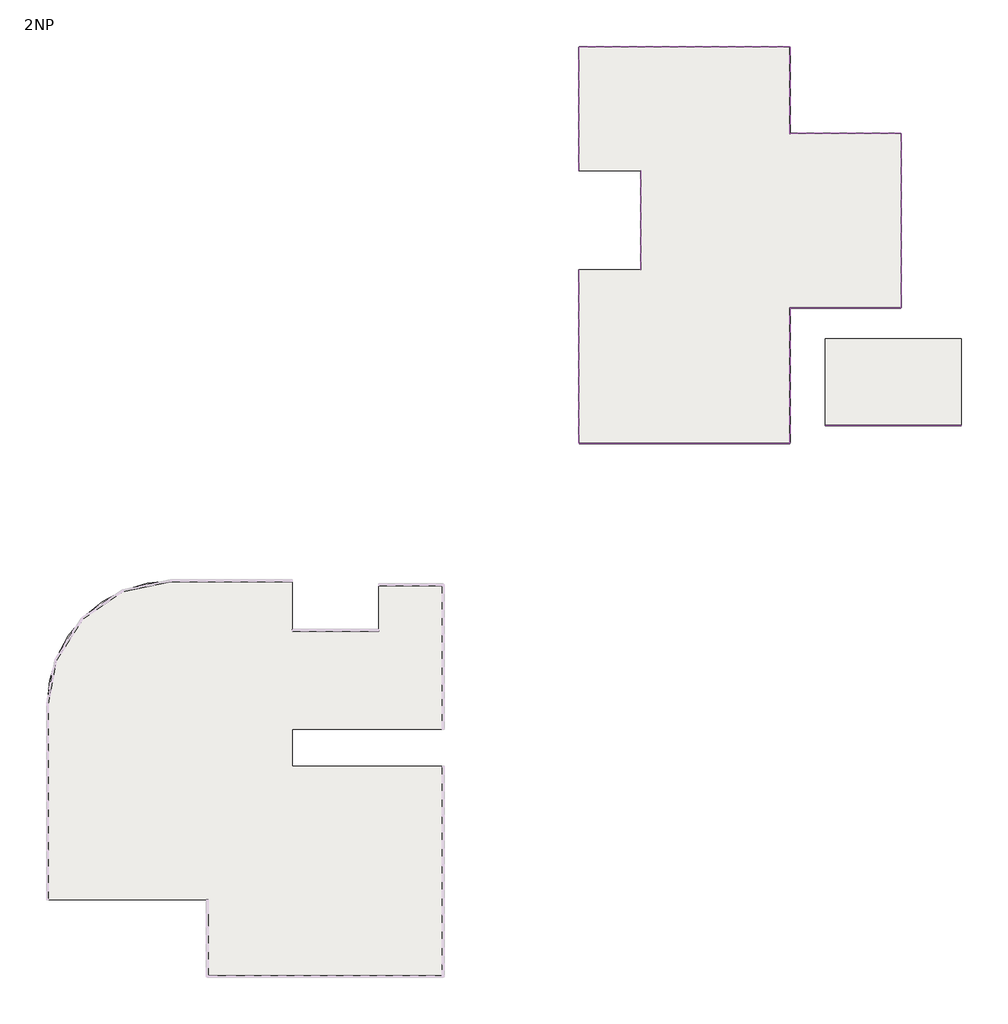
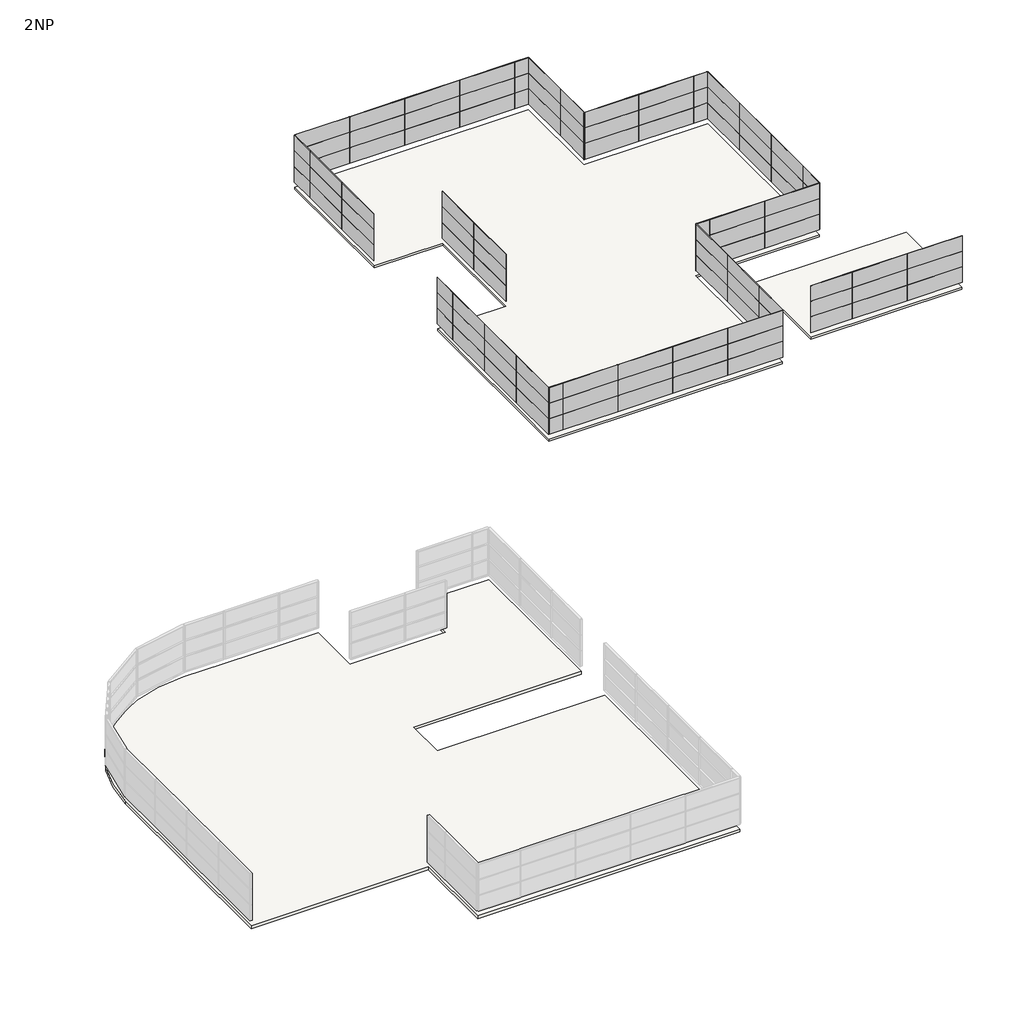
# One storey, part 4 of 4: 111 plates, 2 slabs.
"""IFC4 building model written with IfcOpenShell, lengths in millimetres."""

from ifc_helpers import new_model, si_unit, point, frame, frame_2d, origin, place, context, project, spatial, polyline, circle_curve, trimmed, segment, composite_curve, outline, extrude, transform, mapped, element, save
from components import system_panel_glazed_d6eabcf1, system_panel_glazed_926b6355, system_panel_glazed_d9fb9d0a, system_panel_glazed_4df6a082, system_panel_glazed_76089698, system_panel_glazed_7578c6fa

model = new_model("IFC4")

# Units and contexts
model_context = context("Model", 3, world=origin())
ifc_project = project(units=[si_unit("LENGTHUNIT", "METRE", prefix="MILLI")], contexts=[model_context])

# Site, building, storey
site = spatial("IfcSite", under=ifc_project)
building = spatial("IfcBuilding", under=site)
storey = spatial("IfcBuildingStorey", under=building, Name="2NP", Elevation=8000.0)

# Plates
placement = place(None, origin())
system_panel_glazed_shape = system_panel_glazed_d6eabcf1(model_context)
element("IfcPlate", 1, ObjectType="System Panel : Glazed", at=placement, inside=storey, context=model_context, shape_type="MappedRepresentation", body=[
    mapped(system_panel_glazed_shape, transform((39503.2660975, 19519.7749227, 8400.0), x_axis=(-1.0, 0.0, 0.0), y_axis=(0.0, -1.0, 0.0), z_axis=(0.0, 0.0, 1.0))),
])
element("IfcPlate", 2, ObjectType="System Panel : Glazed", at=placement, inside=storey, context=model_context, shape_type="MappedRepresentation", body=[
    mapped(system_panel_glazed_shape, transform((35503.2660975, 19519.7749227, 8400.0), x_axis=(-1.0, 0.0, 0.0), y_axis=(0.0, -1.0, 0.0), z_axis=(0.0, 0.0, 1.0))),
])
element("IfcPlate", 3, ObjectType="System Panel : Glazed", at=placement, inside=storey, context=model_context, shape_type="MappedRepresentation", body=[
    mapped(system_panel_glazed_shape, transform((31503.2660975, 19519.7749227, 8400.0), x_axis=(-1.0, 0.0, 0.0), y_axis=(0.0, -1.0, 0.0), z_axis=(0.0, 0.0, 1.0))),
])
element("IfcPlate", 4, ObjectType="System Panel : Glazed", at=placement, inside=storey, context=model_context, shape_type="MappedRepresentation", body=[
    mapped(system_panel_glazed_shape, transform((27503.2660975, 19519.7749227, 8400.0), x_axis=(-1.0, 0.0, 0.0), y_axis=(0.0, -1.0, 0.0), z_axis=(0.0, 0.0, 1.0))),
])
element("IfcPlate", 5, ObjectType="System Panel : Glazed", at=placement, inside=storey, context=model_context, shape_type="MappedRepresentation", body=[
    mapped(system_panel_glazed_shape, transform((39503.2660975, 19519.7749227, 9600.0), x_axis=(-1.0, 0.0, 0.0), y_axis=(0.0, -1.0, 0.0), z_axis=(0.0, 0.0, 1.0))),
])
element("IfcPlate", 6, ObjectType="System Panel : Glazed", at=placement, inside=storey, context=model_context, shape_type="MappedRepresentation", body=[
    mapped(system_panel_glazed_shape, transform((35503.2660975, 19519.7749227, 9600.0), x_axis=(-1.0, 0.0, 0.0), y_axis=(0.0, -1.0, 0.0), z_axis=(0.0, 0.0, 1.0))),
])
element("IfcPlate", 7, ObjectType="System Panel : Glazed", at=placement, inside=storey, context=model_context, shape_type="MappedRepresentation", body=[
    mapped(system_panel_glazed_shape, transform((31503.2660975, 19519.7749227, 9600.0), x_axis=(-1.0, 0.0, 0.0), y_axis=(0.0, -1.0, 0.0), z_axis=(0.0, 0.0, 1.0))),
])
element("IfcPlate", 8, ObjectType="System Panel : Glazed", at=placement, inside=storey, context=model_context, shape_type="MappedRepresentation", body=[
    mapped(system_panel_glazed_shape, transform((27503.2660975, 19519.7749227, 9600.0), x_axis=(-1.0, 0.0, 0.0), y_axis=(0.0, -1.0, 0.0), z_axis=(0.0, 0.0, 1.0))),
])
element("IfcPlate", 9, ObjectType="System Panel : Glazed", at=placement, inside=storey, context=model_context, shape_type="MappedRepresentation", body=[
    mapped(system_panel_glazed_shape, transform((39503.2660975, 19519.7749227, 10800.0), x_axis=(-1.0, 0.0, 0.0), y_axis=(0.0, -1.0, 0.0), z_axis=(0.0, 0.0, 1.0))),
])
element("IfcPlate", 10, ObjectType="System Panel : Glazed", at=placement, inside=storey, context=model_context, shape_type="MappedRepresentation", body=[
    mapped(system_panel_glazed_shape, transform((35503.2660975, 19519.7749227, 10800.0), x_axis=(-1.0, 0.0, 0.0), y_axis=(0.0, -1.0, 0.0), z_axis=(0.0, 0.0, 1.0))),
])
element("IfcPlate", 11, ObjectType="System Panel : Glazed", at=placement, inside=storey, context=model_context, shape_type="MappedRepresentation", body=[
    mapped(system_panel_glazed_shape, transform((31503.2660975, 19519.7749227, 10800.0), x_axis=(-1.0, 0.0, 0.0), y_axis=(0.0, -1.0, 0.0), z_axis=(0.0, 0.0, 1.0))),
])
element("IfcPlate", 12, ObjectType="System Panel : Glazed", at=placement, inside=storey, context=model_context, shape_type="MappedRepresentation", body=[
    mapped(system_panel_glazed_shape, transform((27503.2660975, 19519.7749227, 10800.0), x_axis=(-1.0, 0.0, 0.0), y_axis=(0.0, -1.0, 0.0), z_axis=(0.0, 0.0, 1.0))),
])
element("IfcPlate", 13, ObjectType="System Panel : Glazed", at=placement, inside=storey, context=model_context, shape_type="MappedRepresentation", body=[
    mapped(system_panel_glazed_shape, transform((24503.2660975, 21519.7749227, 8400.0), x_axis=(0.0, 1.0, 0.0), y_axis=(-1.0, 0.0, 0.0), z_axis=(0.0, 0.0, 1.0))),
])
element("IfcPlate", 14, ObjectType="System Panel : Glazed", at=placement, inside=storey, context=model_context, shape_type="MappedRepresentation", body=[
    mapped(system_panel_glazed_shape, transform((24503.2660975, 25519.7749227, 8400.0), x_axis=(0.0, 1.0, 0.0), y_axis=(-1.0, 0.0, 0.0), z_axis=(0.0, 0.0, 1.0))),
])
element("IfcPlate", 15, ObjectType="System Panel : Glazed", at=placement, inside=storey, context=model_context, shape_type="MappedRepresentation", body=[
    mapped(system_panel_glazed_shape, transform((24503.2660975, 29519.7749227, 8400.0), x_axis=(0.0, 1.0, 0.0), y_axis=(-1.0, 0.0, 0.0), z_axis=(0.0, 0.0, 1.0))),
])
element("IfcPlate", 16, ObjectType="System Panel : Glazed", at=placement, inside=storey, context=model_context, shape_type="MappedRepresentation", body=[
    mapped(system_panel_glazed_shape, transform((24503.2660975, 21519.7749227, 9600.0), x_axis=(0.0, 1.0, 0.0), y_axis=(-1.0, 0.0, 0.0), z_axis=(0.0, 0.0, 1.0))),
])
element("IfcPlate", 17, ObjectType="System Panel : Glazed", at=placement, inside=storey, context=model_context, shape_type="MappedRepresentation", body=[
    mapped(system_panel_glazed_shape, transform((24503.2660975, 25519.7749227, 9600.0), x_axis=(0.0, 1.0, 0.0), y_axis=(-1.0, 0.0, 0.0), z_axis=(0.0, 0.0, 1.0))),
])
element("IfcPlate", 18, ObjectType="System Panel : Glazed", at=placement, inside=storey, context=model_context, shape_type="MappedRepresentation", body=[
    mapped(system_panel_glazed_shape, transform((24503.2660975, 29519.7749227, 9600.0), x_axis=(0.0, 1.0, 0.0), y_axis=(-1.0, 0.0, 0.0), z_axis=(0.0, 0.0, 1.0))),
])
element("IfcPlate", 19, ObjectType="System Panel : Glazed", at=placement, inside=storey, context=model_context, shape_type="MappedRepresentation", body=[
    mapped(system_panel_glazed_shape, transform((24503.2660975, 21519.7749227, 10800.0), x_axis=(0.0, 1.0, 0.0), y_axis=(-1.0, 0.0, 0.0), z_axis=(0.0, 0.0, 1.0))),
])
element("IfcPlate", 20, ObjectType="System Panel : Glazed", at=placement, inside=storey, context=model_context, shape_type="MappedRepresentation", body=[
    mapped(system_panel_glazed_shape, transform((24503.2660975, 25519.7749227, 10800.0), x_axis=(0.0, 1.0, 0.0), y_axis=(-1.0, 0.0, 0.0), z_axis=(0.0, 0.0, 1.0))),
])
element("IfcPlate", 21, ObjectType="System Panel : Glazed", at=placement, inside=storey, context=model_context, shape_type="MappedRepresentation", body=[
    mapped(system_panel_glazed_shape, transform((24503.2660975, 29519.7749227, 10800.0), x_axis=(0.0, 1.0, 0.0), y_axis=(-1.0, 0.0, 0.0), z_axis=(0.0, 0.0, 1.0))),
])
element("IfcPlate", 22, ObjectType="System Panel : Glazed", at=placement, inside=storey, context=model_context, shape_type="MappedRepresentation", body=[
    mapped(system_panel_glazed_shape, transform((29503.2660975, 35519.7749227, 8400.0), x_axis=(0.0, 1.0, 0.0), y_axis=(-1.0, 0.0, 0.0), z_axis=(0.0, 0.0, 1.0))),
])
element("IfcPlate", 23, ObjectType="System Panel : Glazed", at=placement, inside=storey, context=model_context, shape_type="MappedRepresentation", body=[
    mapped(system_panel_glazed_shape, transform((29503.2660975, 39519.7749227, 8400.0), x_axis=(0.0, 1.0, 0.0), y_axis=(-1.0, 0.0, 0.0), z_axis=(0.0, 0.0, 1.0))),
])
element("IfcPlate", 24, ObjectType="System Panel : Glazed", at=placement, inside=storey, context=model_context, shape_type="MappedRepresentation", body=[
    mapped(system_panel_glazed_shape, transform((29503.2660975, 35519.7749227, 9600.0), x_axis=(0.0, 1.0, 0.0), y_axis=(-1.0, 0.0, 0.0), z_axis=(0.0, 0.0, 1.0))),
])
element("IfcPlate", 25, ObjectType="System Panel : Glazed", at=placement, inside=storey, context=model_context, shape_type="MappedRepresentation", body=[
    mapped(system_panel_glazed_shape, transform((29503.2660975, 39519.7749227, 9600.0), x_axis=(0.0, 1.0, 0.0), y_axis=(-1.0, 0.0, 0.0), z_axis=(0.0, 0.0, 1.0))),
])
element("IfcPlate", 26, ObjectType="System Panel : Glazed", at=placement, inside=storey, context=model_context, shape_type="MappedRepresentation", body=[
    mapped(system_panel_glazed_shape, transform((29503.2660975, 35519.7749227, 10800.0), x_axis=(0.0, 1.0, 0.0), y_axis=(-1.0, 0.0, 0.0), z_axis=(0.0, 0.0, 1.0))),
])
element("IfcPlate", 27, ObjectType="System Panel : Glazed", at=placement, inside=storey, context=model_context, shape_type="MappedRepresentation", body=[
    mapped(system_panel_glazed_shape, transform((29503.2660975, 39519.7749227, 10800.0), x_axis=(0.0, 1.0, 0.0), y_axis=(-1.0, 0.0, 0.0), z_axis=(0.0, 0.0, 1.0))),
])
element("IfcPlate", 28, ObjectType="System Panel : Glazed", at=placement, inside=storey, context=model_context, shape_type="MappedRepresentation", body=[
    mapped(system_panel_glazed_shape, transform((24503.2660975, 43519.7749227, 8400.0), x_axis=(0.0, 1.0, 0.0), y_axis=(-1.0, 0.0, 0.0), z_axis=(0.0, 0.0, 1.0))),
])
element("IfcPlate", 29, ObjectType="System Panel : Glazed", at=placement, inside=storey, context=model_context, shape_type="MappedRepresentation", body=[
    mapped(system_panel_glazed_shape, transform((24503.2660975, 47519.7749227, 8400.0), x_axis=(0.0, 1.0, 0.0), y_axis=(-1.0, 0.0, 0.0), z_axis=(0.0, 0.0, 1.0))),
])
element("IfcPlate", 30, ObjectType="System Panel : Glazed", at=placement, inside=storey, context=model_context, shape_type="MappedRepresentation", body=[
    mapped(system_panel_glazed_shape, transform((24503.2660975, 43519.7749227, 9600.0), x_axis=(0.0, 1.0, 0.0), y_axis=(-1.0, 0.0, 0.0), z_axis=(0.0, 0.0, 1.0))),
])
element("IfcPlate", 31, ObjectType="System Panel : Glazed", at=placement, inside=storey, context=model_context, shape_type="MappedRepresentation", body=[
    mapped(system_panel_glazed_shape, transform((24503.2660975, 47519.7749227, 9600.0), x_axis=(0.0, 1.0, 0.0), y_axis=(-1.0, 0.0, 0.0), z_axis=(0.0, 0.0, 1.0))),
])
element("IfcPlate", 32, ObjectType="System Panel : Glazed", at=placement, inside=storey, context=model_context, shape_type="MappedRepresentation", body=[
    mapped(system_panel_glazed_shape, transform((24503.2660975, 43519.7749227, 10800.0), x_axis=(0.0, 1.0, 0.0), y_axis=(-1.0, 0.0, 0.0), z_axis=(0.0, 0.0, 1.0))),
])
element("IfcPlate", 33, ObjectType="System Panel : Glazed", at=placement, inside=storey, context=model_context, shape_type="MappedRepresentation", body=[
    mapped(system_panel_glazed_shape, transform((24503.2660975, 47519.7749227, 10800.0), x_axis=(0.0, 1.0, 0.0), y_axis=(-1.0, 0.0, 0.0), z_axis=(0.0, 0.0, 1.0))),
])
element("IfcPlate", 34, ObjectType="System Panel : Glazed", at=placement, inside=storey, context=model_context, shape_type="MappedRepresentation", body=[
    mapped(system_panel_glazed_shape, transform((48503.2660975, 30457.4517739, 8400.0), x_axis=(-1.0, 0.0, 0.0), y_axis=(0.0, -1.0, 0.0), z_axis=(0.0, 0.0, 1.0))),
])
element("IfcPlate", 35, ObjectType="System Panel : Glazed", at=placement, inside=storey, context=model_context, shape_type="MappedRepresentation", body=[
    mapped(system_panel_glazed_shape, transform((44503.2660975, 30457.4517739, 8400.0), x_axis=(-1.0, 0.0, 0.0), y_axis=(0.0, -1.0, 0.0), z_axis=(0.0, 0.0, 1.0))),
])
element("IfcPlate", 36, ObjectType="System Panel : Glazed", at=placement, inside=storey, context=model_context, shape_type="MappedRepresentation", body=[
    mapped(system_panel_glazed_shape, transform((48503.2660975, 30457.4517739, 9600.0), x_axis=(-1.0, 0.0, 0.0), y_axis=(0.0, -1.0, 0.0), z_axis=(0.0, 0.0, 1.0))),
])
element("IfcPlate", 37, ObjectType="System Panel : Glazed", at=placement, inside=storey, context=model_context, shape_type="MappedRepresentation", body=[
    mapped(system_panel_glazed_shape, transform((44503.2660975, 30457.4517739, 9600.0), x_axis=(-1.0, 0.0, 0.0), y_axis=(0.0, -1.0, 0.0), z_axis=(0.0, 0.0, 1.0))),
])
element("IfcPlate", 38, ObjectType="System Panel : Glazed", at=placement, inside=storey, context=model_context, shape_type="MappedRepresentation", body=[
    mapped(system_panel_glazed_shape, transform((48503.2660975, 30457.4517739, 10800.0), x_axis=(-1.0, 0.0, 0.0), y_axis=(0.0, -1.0, 0.0), z_axis=(0.0, 0.0, 1.0))),
])
element("IfcPlate", 39, ObjectType="System Panel : Glazed", at=placement, inside=storey, context=model_context, shape_type="MappedRepresentation", body=[
    mapped(system_panel_glazed_shape, transform((44503.2660975, 30457.4517739, 10800.0), x_axis=(-1.0, 0.0, 0.0), y_axis=(0.0, -1.0, 0.0), z_axis=(0.0, 0.0, 1.0))),
])
element("IfcPlate", 40, ObjectType="System Panel : Glazed", at=placement, inside=storey, context=model_context, shape_type="MappedRepresentation", body=[
    mapped(system_panel_glazed_shape, transform((53401.4778879, 20957.9625489, 8400.0), x_axis=(-1.0, 0.0, 0.0), y_axis=(0.0, -1.0, 0.0), z_axis=(0.0, 0.0, 1.0))),
])
element("IfcPlate", 41, ObjectType="System Panel : Glazed", at=placement, inside=storey, context=model_context, shape_type="MappedRepresentation", body=[
    mapped(system_panel_glazed_shape, transform((49401.4778879, 20957.9625489, 8400.0), x_axis=(-1.0, 0.0, 0.0), y_axis=(0.0, -1.0, 0.0), z_axis=(0.0, 0.0, 1.0))),
])
element("IfcPlate", 42, ObjectType="System Panel : Glazed", at=placement, inside=storey, context=model_context, shape_type="MappedRepresentation", body=[
    mapped(system_panel_glazed_shape, transform((53401.4778879, 20957.9625489, 9600.0), x_axis=(-1.0, 0.0, 0.0), y_axis=(0.0, -1.0, 0.0), z_axis=(0.0, 0.0, 1.0))),
])
element("IfcPlate", 43, ObjectType="System Panel : Glazed", at=placement, inside=storey, context=model_context, shape_type="MappedRepresentation", body=[
    mapped(system_panel_glazed_shape, transform((49401.4778879, 20957.9625489, 9600.0), x_axis=(-1.0, 0.0, 0.0), y_axis=(0.0, -1.0, 0.0), z_axis=(0.0, 0.0, 1.0))),
])
element("IfcPlate", 44, ObjectType="System Panel : Glazed", at=placement, inside=storey, context=model_context, shape_type="MappedRepresentation", body=[
    mapped(system_panel_glazed_shape, transform((53401.4778879, 20957.9625489, 10800.0), x_axis=(-1.0, 0.0, 0.0), y_axis=(0.0, -1.0, 0.0), z_axis=(0.0, 0.0, 1.0))),
])
element("IfcPlate", 45, ObjectType="System Panel : Glazed", at=placement, inside=storey, context=model_context, shape_type="MappedRepresentation", body=[
    mapped(system_panel_glazed_shape, transform((49401.4778879, 20957.9625489, 10800.0), x_axis=(-1.0, 0.0, 0.0), y_axis=(0.0, -1.0, 0.0), z_axis=(0.0, 0.0, 1.0))),
])
element("IfcPlate", 46, ObjectType="System Panel : Glazed", at=placement, inside=storey, context=model_context, shape_type="MappedRepresentation", body=[
    mapped(system_panel_glazed_shape, transform((26503.2660975, 51519.7749227, 8400.0), x_axis=(1.0, 0.0, 0.0), y_axis=(0.0, 1.0, 0.0), z_axis=(0.0, 0.0, 1.0))),
])
element("IfcPlate", 47, ObjectType="System Panel : Glazed", at=placement, inside=storey, context=model_context, shape_type="MappedRepresentation", body=[
    mapped(system_panel_glazed_shape, transform((30503.2660975, 51519.7749227, 8400.0), x_axis=(1.0, 0.0, 0.0), y_axis=(0.0, 1.0, 0.0), z_axis=(0.0, 0.0, 1.0))),
])
element("IfcPlate", 48, ObjectType="System Panel : Glazed", at=placement, inside=storey, context=model_context, shape_type="MappedRepresentation", body=[
    mapped(system_panel_glazed_shape, transform((34503.2660975, 51519.7749227, 8400.0), x_axis=(1.0, 0.0, 0.0), y_axis=(0.0, 1.0, 0.0), z_axis=(0.0, 0.0, 1.0))),
])
element("IfcPlate", 49, ObjectType="System Panel : Glazed", at=placement, inside=storey, context=model_context, shape_type="MappedRepresentation", body=[
    mapped(system_panel_glazed_shape, transform((38503.2660975, 51519.7749227, 8400.0), x_axis=(1.0, 0.0, 0.0), y_axis=(0.0, 1.0, 0.0), z_axis=(0.0, 0.0, 1.0))),
])
element("IfcPlate", 50, ObjectType="System Panel : Glazed", at=placement, inside=storey, context=model_context, shape_type="MappedRepresentation", body=[
    mapped(system_panel_glazed_shape, transform((26503.2660975, 51519.7749227, 9600.0), x_axis=(1.0, 0.0, 0.0), y_axis=(0.0, 1.0, 0.0), z_axis=(0.0, 0.0, 1.0))),
])
element("IfcPlate", 51, ObjectType="System Panel : Glazed", at=placement, inside=storey, context=model_context, shape_type="MappedRepresentation", body=[
    mapped(system_panel_glazed_shape, transform((30503.2660975, 51519.7749227, 9600.0), x_axis=(1.0, 0.0, 0.0), y_axis=(0.0, 1.0, 0.0), z_axis=(0.0, 0.0, 1.0))),
])
element("IfcPlate", 52, ObjectType="System Panel : Glazed", at=placement, inside=storey, context=model_context, shape_type="MappedRepresentation", body=[
    mapped(system_panel_glazed_shape, transform((34503.2660975, 51519.7749227, 9600.0), x_axis=(1.0, 0.0, 0.0), y_axis=(0.0, 1.0, 0.0), z_axis=(0.0, 0.0, 1.0))),
])
element("IfcPlate", 53, ObjectType="System Panel : Glazed", at=placement, inside=storey, context=model_context, shape_type="MappedRepresentation", body=[
    mapped(system_panel_glazed_shape, transform((38503.2660975, 51519.7749227, 9600.0), x_axis=(1.0, 0.0, 0.0), y_axis=(0.0, 1.0, 0.0), z_axis=(0.0, 0.0, 1.0))),
])
element("IfcPlate", 54, ObjectType="System Panel : Glazed", at=placement, inside=storey, context=model_context, shape_type="MappedRepresentation", body=[
    mapped(system_panel_glazed_shape, transform((26503.2660975, 51519.7749227, 10800.0), x_axis=(1.0, 0.0, 0.0), y_axis=(0.0, 1.0, 0.0), z_axis=(0.0, 0.0, 1.0))),
])
element("IfcPlate", 55, ObjectType="System Panel : Glazed", at=placement, inside=storey, context=model_context, shape_type="MappedRepresentation", body=[
    mapped(system_panel_glazed_shape, transform((30503.2660975, 51519.7749227, 10800.0), x_axis=(1.0, 0.0, 0.0), y_axis=(0.0, 1.0, 0.0), z_axis=(0.0, 0.0, 1.0))),
])
element("IfcPlate", 56, ObjectType="System Panel : Glazed", at=placement, inside=storey, context=model_context, shape_type="MappedRepresentation", body=[
    mapped(system_panel_glazed_shape, transform((34503.2660975, 51519.7749227, 10800.0), x_axis=(1.0, 0.0, 0.0), y_axis=(0.0, 1.0, 0.0), z_axis=(0.0, 0.0, 1.0))),
])
element("IfcPlate", 57, ObjectType="System Panel : Glazed", at=placement, inside=storey, context=model_context, shape_type="MappedRepresentation", body=[
    mapped(system_panel_glazed_shape, transform((38503.2660975, 51519.7749227, 10800.0), x_axis=(1.0, 0.0, 0.0), y_axis=(0.0, 1.0, 0.0), z_axis=(0.0, 0.0, 1.0))),
])
element("IfcPlate", 58, ObjectType="System Panel : Glazed", at=placement, inside=storey, context=model_context, shape_type="MappedRepresentation", body=[
    mapped(system_panel_glazed_shape, transform((41503.2660975, 49519.7749227, 8400.0), x_axis=(0.0, -1.0, 0.0), y_axis=(1.0, 0.0, 0.0), z_axis=(0.0, 0.0, 1.0))),
])
element("IfcPlate", 59, ObjectType="System Panel : Glazed", at=placement, inside=storey, context=model_context, shape_type="MappedRepresentation", body=[
    mapped(system_panel_glazed_shape, transform((41503.2660975, 49519.7749227, 9600.0), x_axis=(0.0, -1.0, 0.0), y_axis=(1.0, 0.0, 0.0), z_axis=(0.0, 0.0, 1.0))),
])
element("IfcPlate", 60, ObjectType="System Panel : Glazed", at=placement, inside=storey, context=model_context, shape_type="MappedRepresentation", body=[
    mapped(system_panel_glazed_shape, transform((41503.2660975, 49519.7749227, 10800.0), x_axis=(0.0, -1.0, 0.0), y_axis=(1.0, 0.0, 0.0), z_axis=(0.0, 0.0, 1.0))),
])
element("IfcPlate", 61, ObjectType="System Panel : Glazed", at=placement, inside=storey, context=model_context, shape_type="MappedRepresentation", body=[
    mapped(system_panel_glazed_shape, transform((43503.2660975, 44519.7749227, 8400.0), x_axis=(1.0, 0.0, 0.0), y_axis=(0.0, 1.0, 0.0), z_axis=(0.0, 0.0, 1.0))),
])
element("IfcPlate", 62, ObjectType="System Panel : Glazed", at=placement, inside=storey, context=model_context, shape_type="MappedRepresentation", body=[
    mapped(system_panel_glazed_shape, transform((47503.2660975, 44519.7749227, 8400.0), x_axis=(1.0, 0.0, 0.0), y_axis=(0.0, 1.0, 0.0), z_axis=(0.0, 0.0, 1.0))),
])
element("IfcPlate", 63, ObjectType="System Panel : Glazed", at=placement, inside=storey, context=model_context, shape_type="MappedRepresentation", body=[
    mapped(system_panel_glazed_shape, transform((43503.2660975, 44519.7749227, 9600.0), x_axis=(1.0, 0.0, 0.0), y_axis=(0.0, 1.0, 0.0), z_axis=(0.0, 0.0, 1.0))),
])
element("IfcPlate", 64, ObjectType="System Panel : Glazed", at=placement, inside=storey, context=model_context, shape_type="MappedRepresentation", body=[
    mapped(system_panel_glazed_shape, transform((47503.2660975, 44519.7749227, 9600.0), x_axis=(1.0, 0.0, 0.0), y_axis=(0.0, 1.0, 0.0), z_axis=(0.0, 0.0, 1.0))),
])
element("IfcPlate", 65, ObjectType="System Panel : Glazed", at=placement, inside=storey, context=model_context, shape_type="MappedRepresentation", body=[
    mapped(system_panel_glazed_shape, transform((43503.2660975, 44519.7749227, 10800.0), x_axis=(1.0, 0.0, 0.0), y_axis=(0.0, 1.0, 0.0), z_axis=(0.0, 0.0, 1.0))),
])
element("IfcPlate", 66, ObjectType="System Panel : Glazed", at=placement, inside=storey, context=model_context, shape_type="MappedRepresentation", body=[
    mapped(system_panel_glazed_shape, transform((47503.2660975, 44519.7749227, 10800.0), x_axis=(1.0, 0.0, 0.0), y_axis=(0.0, 1.0, 0.0), z_axis=(0.0, 0.0, 1.0))),
])
element("IfcPlate", 67, ObjectType="System Panel : Glazed", at=placement, inside=storey, context=model_context, shape_type="MappedRepresentation", body=[
    mapped(system_panel_glazed_shape, transform((50503.2660975, 42519.7749227, 8400.0), x_axis=(0.0, -1.0, 0.0), y_axis=(1.0, 0.0, 0.0), z_axis=(0.0, 0.0, 1.0))),
])
element("IfcPlate", 68, ObjectType="System Panel : Glazed", at=placement, inside=storey, context=model_context, shape_type="MappedRepresentation", body=[
    mapped(system_panel_glazed_shape, transform((50503.2660975, 38519.7749227, 8400.0), x_axis=(0.0, -1.0, 0.0), y_axis=(1.0, 0.0, 0.0), z_axis=(0.0, 0.0, 1.0))),
])
element("IfcPlate", 69, ObjectType="System Panel : Glazed", at=placement, inside=storey, context=model_context, shape_type="MappedRepresentation", body=[
    mapped(system_panel_glazed_shape, transform((50503.2660975, 34519.7749227, 8400.0), x_axis=(0.0, -1.0, 0.0), y_axis=(1.0, 0.0, 0.0), z_axis=(0.0, 0.0, 1.0))),
])
element("IfcPlate", 70, ObjectType="System Panel : Glazed", at=placement, inside=storey, context=model_context, shape_type="MappedRepresentation", body=[
    mapped(system_panel_glazed_shape, transform((50503.2660975, 42519.7749227, 9600.0), x_axis=(0.0, -1.0, 0.0), y_axis=(1.0, 0.0, 0.0), z_axis=(0.0, 0.0, 1.0))),
])
element("IfcPlate", 71, ObjectType="System Panel : Glazed", at=placement, inside=storey, context=model_context, shape_type="MappedRepresentation", body=[
    mapped(system_panel_glazed_shape, transform((50503.2660975, 38519.7749227, 9600.0), x_axis=(0.0, -1.0, 0.0), y_axis=(1.0, 0.0, 0.0), z_axis=(0.0, 0.0, 1.0))),
])
element("IfcPlate", 72, ObjectType="System Panel : Glazed", at=placement, inside=storey, context=model_context, shape_type="MappedRepresentation", body=[
    mapped(system_panel_glazed_shape, transform((50503.2660975, 34519.7749227, 9600.0), x_axis=(0.0, -1.0, 0.0), y_axis=(1.0, 0.0, 0.0), z_axis=(0.0, 0.0, 1.0))),
])
element("IfcPlate", 73, ObjectType="System Panel : Glazed", at=placement, inside=storey, context=model_context, shape_type="MappedRepresentation", body=[
    mapped(system_panel_glazed_shape, transform((50503.2660975, 42519.7749227, 10800.0), x_axis=(0.0, -1.0, 0.0), y_axis=(1.0, 0.0, 0.0), z_axis=(0.0, 0.0, 1.0))),
])
element("IfcPlate", 74, ObjectType="System Panel : Glazed", at=placement, inside=storey, context=model_context, shape_type="MappedRepresentation", body=[
    mapped(system_panel_glazed_shape, transform((50503.2660975, 38519.7749227, 10800.0), x_axis=(0.0, -1.0, 0.0), y_axis=(1.0, 0.0, 0.0), z_axis=(0.0, 0.0, 1.0))),
])
element("IfcPlate", 75, ObjectType="System Panel : Glazed", at=placement, inside=storey, context=model_context, shape_type="MappedRepresentation", body=[
    mapped(system_panel_glazed_shape, transform((50503.2660975, 34519.7749227, 10800.0), x_axis=(0.0, -1.0, 0.0), y_axis=(1.0, 0.0, 0.0), z_axis=(0.0, 0.0, 1.0))),
])
element("IfcPlate", 76, ObjectType="System Panel : Glazed", at=placement, inside=storey, context=model_context, shape_type="MappedRepresentation", body=[
    mapped(system_panel_glazed_shape, transform((41503.2660975, 28457.4517739, 8400.0), x_axis=(0.0, -1.0, 0.0), y_axis=(1.0, 0.0, 0.0), z_axis=(0.0, 0.0, 1.0))),
])
element("IfcPlate", 77, ObjectType="System Panel : Glazed", at=placement, inside=storey, context=model_context, shape_type="MappedRepresentation", body=[
    mapped(system_panel_glazed_shape, transform((41503.2660975, 24457.4517739, 8400.0), x_axis=(0.0, -1.0, 0.0), y_axis=(1.0, 0.0, 0.0), z_axis=(0.0, 0.0, 1.0))),
])
element("IfcPlate", 78, ObjectType="System Panel : Glazed", at=placement, inside=storey, context=model_context, shape_type="MappedRepresentation", body=[
    mapped(system_panel_glazed_shape, transform((41503.2660975, 28457.4517739, 9600.0), x_axis=(0.0, -1.0, 0.0), y_axis=(1.0, 0.0, 0.0), z_axis=(0.0, 0.0, 1.0))),
])
element("IfcPlate", 79, ObjectType="System Panel : Glazed", at=placement, inside=storey, context=model_context, shape_type="MappedRepresentation", body=[
    mapped(system_panel_glazed_shape, transform((41503.2660975, 24457.4517739, 9600.0), x_axis=(0.0, -1.0, 0.0), y_axis=(1.0, 0.0, 0.0), z_axis=(0.0, 0.0, 1.0))),
])
element("IfcPlate", 80, ObjectType="System Panel : Glazed", at=placement, inside=storey, context=model_context, shape_type="MappedRepresentation", body=[
    mapped(system_panel_glazed_shape, transform((41503.2660975, 28457.4517739, 10800.0), x_axis=(0.0, -1.0, 0.0), y_axis=(1.0, 0.0, 0.0), z_axis=(0.0, 0.0, 1.0))),
])
element("IfcPlate", 81, ObjectType="System Panel : Glazed", at=placement, inside=storey, context=model_context, shape_type="MappedRepresentation", body=[
    mapped(system_panel_glazed_shape, transform((41503.2660975, 24457.4517739, 10800.0), x_axis=(0.0, -1.0, 0.0), y_axis=(1.0, 0.0, 0.0), z_axis=(0.0, 0.0, 1.0))),
])
system_panel_glazed_2_shape = system_panel_glazed_926b6355(model_context)
element("IfcPlate", 82, ObjectType="System Panel : Glazed", at=placement, inside=storey, context=model_context, shape_type="MappedRepresentation", body=[
    mapped(system_panel_glazed_2_shape, transform((25003.2660975, 19519.7749227, 8400.0), x_axis=(-1.0, 0.0, 0.0), y_axis=(0.0, -1.0, 0.0), z_axis=(0.0, 0.0, 1.0))),
])
element("IfcPlate", 83, ObjectType="System Panel : Glazed", at=placement, inside=storey, context=model_context, shape_type="MappedRepresentation", body=[
    mapped(system_panel_glazed_2_shape, transform((25003.2660975, 19519.7749227, 9600.0), x_axis=(-1.0, 0.0, 0.0), y_axis=(0.0, -1.0, 0.0), z_axis=(0.0, 0.0, 1.0))),
])
element("IfcPlate", 84, ObjectType="System Panel : Glazed", at=placement, inside=storey, context=model_context, shape_type="MappedRepresentation", body=[
    mapped(system_panel_glazed_2_shape, transform((25003.2660975, 19519.7749227, 10800.0), x_axis=(-1.0, 0.0, 0.0), y_axis=(0.0, -1.0, 0.0), z_axis=(0.0, 0.0, 1.0))),
])
element("IfcPlate", 85, ObjectType="System Panel : Glazed", at=placement, inside=storey, context=model_context, shape_type="MappedRepresentation", body=[
    mapped(system_panel_glazed_2_shape, transform((42003.2660975, 30457.4517739, 8400.0), x_axis=(-1.0, 0.0, 0.0), y_axis=(0.0, -1.0, 0.0), z_axis=(0.0, 0.0, 1.0))),
])
element("IfcPlate", 86, ObjectType="System Panel : Glazed", at=placement, inside=storey, context=model_context, shape_type="MappedRepresentation", body=[
    mapped(system_panel_glazed_2_shape, transform((42003.2660975, 30457.4517739, 9600.0), x_axis=(-1.0, 0.0, 0.0), y_axis=(0.0, -1.0, 0.0), z_axis=(0.0, 0.0, 1.0))),
])
element("IfcPlate", 87, ObjectType="System Panel : Glazed", at=placement, inside=storey, context=model_context, shape_type="MappedRepresentation", body=[
    mapped(system_panel_glazed_2_shape, transform((42003.2660975, 30457.4517739, 10800.0), x_axis=(-1.0, 0.0, 0.0), y_axis=(0.0, -1.0, 0.0), z_axis=(0.0, 0.0, 1.0))),
])
element("IfcPlate", 88, ObjectType="System Panel : Glazed", at=placement, inside=storey, context=model_context, shape_type="MappedRepresentation", body=[
    mapped(system_panel_glazed_2_shape, transform((41003.2660975, 51519.7749227, 8400.0), x_axis=(1.0, 0.0, 0.0), y_axis=(0.0, 1.0, 0.0), z_axis=(0.0, 0.0, 1.0))),
])
element("IfcPlate", 89, ObjectType="System Panel : Glazed", at=placement, inside=storey, context=model_context, shape_type="MappedRepresentation", body=[
    mapped(system_panel_glazed_2_shape, transform((41003.2660975, 51519.7749227, 9600.0), x_axis=(1.0, 0.0, 0.0), y_axis=(0.0, 1.0, 0.0), z_axis=(0.0, 0.0, 1.0))),
])
element("IfcPlate", 90, ObjectType="System Panel : Glazed", at=placement, inside=storey, context=model_context, shape_type="MappedRepresentation", body=[
    mapped(system_panel_glazed_2_shape, transform((41003.2660975, 51519.7749227, 10800.0), x_axis=(1.0, 0.0, 0.0), y_axis=(0.0, 1.0, 0.0), z_axis=(0.0, 0.0, 1.0))),
])
element("IfcPlate", 91, ObjectType="System Panel : Glazed", at=placement, inside=storey, context=model_context, shape_type="MappedRepresentation", body=[
    mapped(system_panel_glazed_2_shape, transform((50003.2660975, 44519.7749227, 8400.0), x_axis=(1.0, 0.0, 0.0), y_axis=(0.0, 1.0, 0.0), z_axis=(0.0, 0.0, 1.0))),
])
element("IfcPlate", 92, ObjectType="System Panel : Glazed", at=placement, inside=storey, context=model_context, shape_type="MappedRepresentation", body=[
    mapped(system_panel_glazed_2_shape, transform((50003.2660975, 44519.7749227, 9600.0), x_axis=(1.0, 0.0, 0.0), y_axis=(0.0, 1.0, 0.0), z_axis=(0.0, 0.0, 1.0))),
])
element("IfcPlate", 93, ObjectType="System Panel : Glazed", at=placement, inside=storey, context=model_context, shape_type="MappedRepresentation", body=[
    mapped(system_panel_glazed_2_shape, transform((50003.2660975, 44519.7749227, 10800.0), x_axis=(1.0, 0.0, 0.0), y_axis=(0.0, 1.0, 0.0), z_axis=(0.0, 0.0, 1.0))),
])
system_panel_glazed_3_shape = system_panel_glazed_d9fb9d0a(model_context)
element("IfcPlate", 94, ObjectType="System Panel : Glazed", at=placement, inside=storey, context=model_context, shape_type="MappedRepresentation", body=[
    mapped(system_panel_glazed_3_shape, transform((24503.2660975, 32519.7749227, 8400.0), x_axis=(0.0, 1.0, 0.0), y_axis=(-1.0, 0.0, 0.0), z_axis=(0.0, 0.0, 1.0))),
])
element("IfcPlate", 95, ObjectType="System Panel : Glazed", at=placement, inside=storey, context=model_context, shape_type="MappedRepresentation", body=[
    mapped(system_panel_glazed_3_shape, transform((24503.2660975, 32519.7749227, 9600.0), x_axis=(0.0, 1.0, 0.0), y_axis=(-1.0, 0.0, 0.0), z_axis=(0.0, 0.0, 1.0))),
])
element("IfcPlate", 96, ObjectType="System Panel : Glazed", at=placement, inside=storey, context=model_context, shape_type="MappedRepresentation", body=[
    mapped(system_panel_glazed_3_shape, transform((24503.2660975, 32519.7749227, 10800.0), x_axis=(0.0, 1.0, 0.0), y_axis=(-1.0, 0.0, 0.0), z_axis=(0.0, 0.0, 1.0))),
])
element("IfcPlate", 97, ObjectType="System Panel : Glazed", at=placement, inside=storey, context=model_context, shape_type="MappedRepresentation", body=[
    mapped(system_panel_glazed_3_shape, transform((24503.2660975, 50519.7749227, 8400.0), x_axis=(0.0, 1.0, 0.0), y_axis=(-1.0, 0.0, 0.0), z_axis=(0.0, 0.0, 1.0))),
])
element("IfcPlate", 98, ObjectType="System Panel : Glazed", at=placement, inside=storey, context=model_context, shape_type="MappedRepresentation", body=[
    mapped(system_panel_glazed_3_shape, transform((24503.2660975, 50519.7749227, 9600.0), x_axis=(0.0, 1.0, 0.0), y_axis=(-1.0, 0.0, 0.0), z_axis=(0.0, 0.0, 1.0))),
])
element("IfcPlate", 99, ObjectType="System Panel : Glazed", at=placement, inside=storey, context=model_context, shape_type="MappedRepresentation", body=[
    mapped(system_panel_glazed_3_shape, transform((24503.2660975, 50519.7749227, 10800.0), x_axis=(0.0, 1.0, 0.0), y_axis=(-1.0, 0.0, 0.0), z_axis=(0.0, 0.0, 1.0))),
])
system_panel_glazed_4_shape = system_panel_glazed_4df6a082(model_context)
element("IfcPlate", 100, ObjectType="System Panel : Glazed", at=placement, inside=storey, context=model_context, shape_type="MappedRepresentation", body=[
    mapped(system_panel_glazed_4_shape, transform((45901.4778879, 20957.9625489, 8400.0), x_axis=(-1.0, 0.0, 0.0), y_axis=(0.0, -1.0, 0.0), z_axis=(0.0, 0.0, 1.0))),
])
element("IfcPlate", 101, ObjectType="System Panel : Glazed", at=placement, inside=storey, context=model_context, shape_type="MappedRepresentation", body=[
    mapped(system_panel_glazed_4_shape, transform((45901.4778879, 20957.9625489, 9600.0), x_axis=(-1.0, 0.0, 0.0), y_axis=(0.0, -1.0, 0.0), z_axis=(0.0, 0.0, 1.0))),
])
element("IfcPlate", 102, ObjectType="System Panel : Glazed", at=placement, inside=storey, context=model_context, shape_type="MappedRepresentation", body=[
    mapped(system_panel_glazed_4_shape, transform((45901.4778879, 20957.9625489, 10800.0), x_axis=(-1.0, 0.0, 0.0), y_axis=(0.0, -1.0, 0.0), z_axis=(0.0, 0.0, 1.0))),
])
element("IfcPlate", 103, ObjectType="System Panel : Glazed", at=placement, inside=storey, context=model_context, shape_type="MappedRepresentation", body=[
    mapped(system_panel_glazed_4_shape, transform((41503.2660975, 46019.7749227, 8400.0), x_axis=(0.0, -1.0, 0.0), y_axis=(1.0, 0.0, 0.0), z_axis=(0.0, 0.0, 1.0))),
])
element("IfcPlate", 104, ObjectType="System Panel : Glazed", at=placement, inside=storey, context=model_context, shape_type="MappedRepresentation", body=[
    mapped(system_panel_glazed_4_shape, transform((41503.2660975, 46019.7749227, 9600.0), x_axis=(0.0, -1.0, 0.0), y_axis=(1.0, 0.0, 0.0), z_axis=(0.0, 0.0, 1.0))),
])
element("IfcPlate", 105, ObjectType="System Panel : Glazed", at=placement, inside=storey, context=model_context, shape_type="MappedRepresentation", body=[
    mapped(system_panel_glazed_4_shape, transform((41503.2660975, 46019.7749227, 10800.0), x_axis=(0.0, -1.0, 0.0), y_axis=(1.0, 0.0, 0.0), z_axis=(0.0, 0.0, 1.0))),
])
system_panel_glazed_5_shape = system_panel_glazed_76089698(model_context)
element("IfcPlate", 106, ObjectType="System Panel : Glazed", at=placement, inside=storey, context=model_context, shape_type="MappedRepresentation", body=[
    mapped(system_panel_glazed_5_shape, transform((50503.2660975, 31488.6133483, 8400.0), x_axis=(0.0, -1.0, 0.0), y_axis=(1.0, 0.0, 0.0), z_axis=(0.0, 0.0, 1.0))),
])
element("IfcPlate", 107, ObjectType="System Panel : Glazed", at=placement, inside=storey, context=model_context, shape_type="MappedRepresentation", body=[
    mapped(system_panel_glazed_5_shape, transform((50503.2660975, 31488.6133483, 9600.0), x_axis=(0.0, -1.0, 0.0), y_axis=(1.0, 0.0, 0.0), z_axis=(0.0, 0.0, 1.0))),
])
element("IfcPlate", 108, ObjectType="System Panel : Glazed", at=placement, inside=storey, context=model_context, shape_type="MappedRepresentation", body=[
    mapped(system_panel_glazed_5_shape, transform((50503.2660975, 31488.6133483, 10800.0), x_axis=(0.0, -1.0, 0.0), y_axis=(1.0, 0.0, 0.0), z_axis=(0.0, 0.0, 1.0))),
])
system_panel_glazed_6_shape = system_panel_glazed_7578c6fa(model_context)
element("IfcPlate", 109, ObjectType="System Panel : Glazed", at=placement, inside=storey, context=model_context, shape_type="MappedRepresentation", body=[
    mapped(system_panel_glazed_6_shape, transform((41503.2660975, 20988.6133483, 8400.0), x_axis=(0.0, -1.0, 0.0), y_axis=(1.0, 0.0, 0.0), z_axis=(0.0, 0.0, 1.0))),
])
element("IfcPlate", 110, ObjectType="System Panel : Glazed", at=placement, inside=storey, context=model_context, shape_type="MappedRepresentation", body=[
    mapped(system_panel_glazed_6_shape, transform((41503.2660975, 20988.6133483, 9600.0), x_axis=(0.0, -1.0, 0.0), y_axis=(1.0, 0.0, 0.0), z_axis=(0.0, 0.0, 1.0))),
])
element("IfcPlate", 111, ObjectType="System Panel : Glazed", at=placement, inside=storey, context=model_context, shape_type="MappedRepresentation", body=[
    mapped(system_panel_glazed_6_shape, transform((41503.2660975, 20988.6133483, 10800.0), x_axis=(0.0, -1.0, 0.0), y_axis=(1.0, 0.0, 0.0), z_axis=(0.0, 0.0, 1.0))),
])

# Slabs
element("IfcSlab", 112, ObjectType="Generic 150mm", at=placement, inside=storey, context=model_context, shape_type="SweptSolid", body=[
    extrude(outline(polyline([(24503.2660975, 19519.7749227), (24503.2660975, 33519.7749227), (29503.2660975, 33519.7749227), (29503.2660975, 41519.7749227), (24503.2660975, 41519.7749227), (24503.2660975, 51519.7749227), (41503.2660975, 51519.7749227), (41503.2660975, 44519.7749227), (50503.2660975, 44519.7749227), (50503.2660975, 30457.4517739), (41503.2660975, 30457.4517739), (41503.2660975, 19519.7749227), (24503.2660975, 19519.7749227)])), frame((0.0, 0.0, 7850.0), z_axis=(0.0, 0.0, 1.0), x_axis=(1.0, 0.0, 0.0)), (0.0, 0.0, 1.0), 150.0),
    extrude(outline(polyline([(44401.4778879, 20957.9625489), (44401.4778879, 27957.9625489), (55401.4778879, 27957.9625489), (55401.4778879, 20957.9625489), (44401.4778879, 20957.9625489)])), frame((0.0, 0.0, 7850.0), z_axis=(0.0, 0.0, 1.0), x_axis=(1.0, 0.0, 0.0)), (0.0, 0.0, 1.0), 150.0),
])
element("IfcSlab", 113, ObjectType="Insitu Concrete 225mm", at=placement, inside=storey, context=model_context, shape_type="SweptSolid", body=[
    extrude(outline(composite_curve([segment(polyline([(-18496.7339025, -17423.5291324), (-18496.7339025, -1624.0160434)]), True, "CONTINUOUS"), segment(trimmed(circle_curve(frame_2d((-8496.7339025, -1624.0160434)), 10000.0), [point((-18496.7339025, -1624.0160434))], [point((-8496.7339025, 8375.9839566))], False, "CARTESIAN"), True, "CONTINUOUS"), segment(polyline([(-8496.7339025, 8375.9839566), (-5587.173406, 8375.9839566), (1278.419219, 8375.9839566), (1278.419219, 4375.9839566), (8278.419219, 4375.9839566), (8278.419219, 8039.3555415), (13503.2660975, 8039.3555415), (13503.2660975, -3624.0160434), (1278.419219, -3624.0160434), (1278.419219, -6624.0160434), (13503.2660975, -6624.0160434), (13503.2660975, -23624.0160434), (-5587.173406, -23624.0160434), (-5587.173406, -17423.5291324), (-18496.7339025, -17423.5291324)]), True, "CONTINUOUS")], self_intersect=False)), frame((0.0, 0.0, 7775.0), z_axis=(0.0, 0.0, 1.0), x_axis=(1.0, 0.0, 0.0)), (0.0, 0.0, 1.0), 225.0),
])

save(model, "model.ifc")
